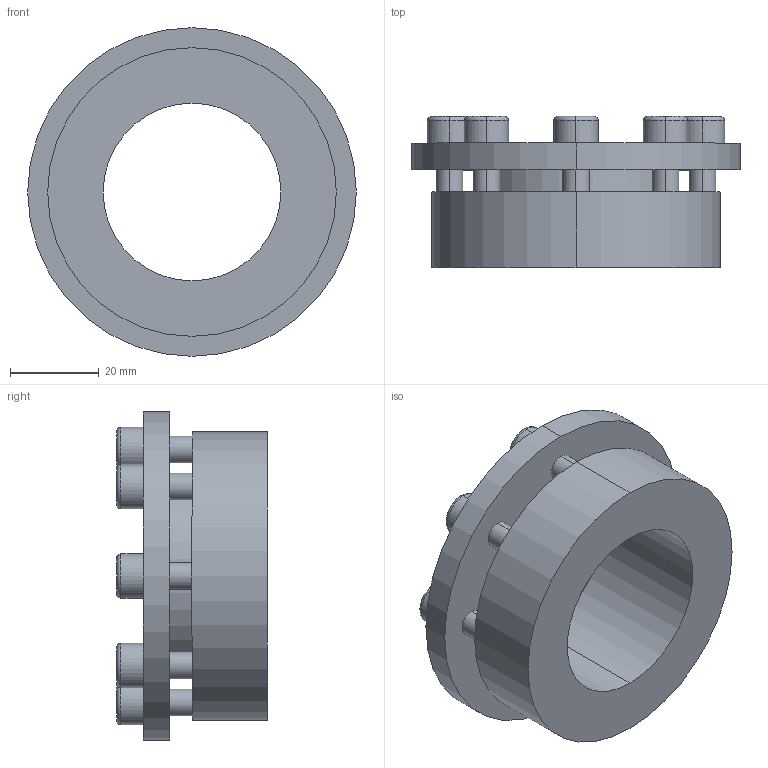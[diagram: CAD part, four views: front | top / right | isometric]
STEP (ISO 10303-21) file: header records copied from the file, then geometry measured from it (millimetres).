
FILE_DESCRIPTION (( 'STEP AP203' ), '1' );
FILE_NAME ('PL-H6 40-65.STEP', '2021-10-23T01:36:29', ( '' ), ( '' ), 'SwSTEP 2.0', 'SolidWorks 2018', '' );
FILE_SCHEMA (( 'CONFIG_CONTROL_DESIGN' ));
Length unit declared in the file: millimetre
Products named in the file (1): PL-H6 40-65
Bounding box: 74 x 34 x 74 mm (x, y, z)
Volume: 59312.3 mm3; surface area: 20749.7 mm2
Topology: 1 solids, 1 shells, 124 faces, 296 edges, 192 vertices
Faces by surface type: plane 68, cylinder 40, torus 16
Entity records: 3717 total; most frequent: DIRECTION 658, CARTESIAN_POINT 613, ORIENTED_EDGE 592, EDGE_CURVE 296, AXIS2_PLACEMENT_3D 237, VERTEX_POINT 192, VECTOR 184, LINE 184
